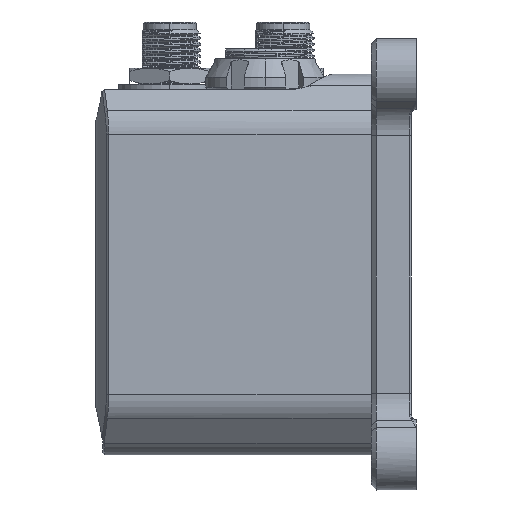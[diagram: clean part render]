
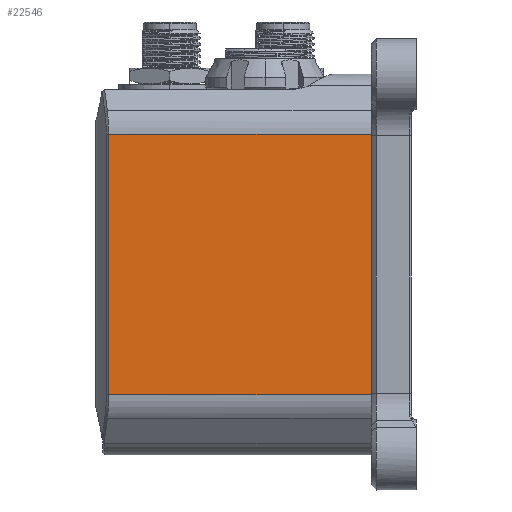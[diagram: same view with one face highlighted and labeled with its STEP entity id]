
A CAD part, left-side view. The second image highlights one B-rep face of the part: STEP entity #22546.
In plain terms, the highlighted planar face has unit normal (-1, 0, 0).
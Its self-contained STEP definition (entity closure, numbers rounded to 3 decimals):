
#1529 = VERTEX_POINT ( 'NONE', #55638 ) ;
#1611 = EDGE_CURVE ( 'NONE', #6517, #22581, #45923, .T. ) ;
#2511 = ORIENTED_EDGE ( 'NONE', *, *, #3895, .T. ) ;
#3051 = DIRECTION ( 'NONE',  ( 0., 0., -1. ) ) ;
#3895 = EDGE_CURVE ( 'NONE', #22581, #58399, #29350, .T. ) ;
#6517 = VERTEX_POINT ( 'NONE', #46482 ) ;
#9006 = CARTESIAN_POINT ( 'NONE',  ( -28.886, 12.753, 25. ) ) ;
#16021 = CARTESIAN_POINT ( 'NONE',  ( -28.886, 14.053, 51. ) ) ;
#19737 = VECTOR ( 'NONE', #43160, 1000. ) ;
#20570 = DIRECTION ( 'NONE',  ( 0., 0., 1. ) ) ;
#21866 = CARTESIAN_POINT ( 'NONE',  ( -28.886, 14.053, 25. ) ) ;
#22237 = EDGE_CURVE ( 'NONE', #6517, #1529, #44852, .T. ) ;
#22546 = ADVANCED_FACE ( 'NONE', ( #60431 ), #31585, .F. ) ;
#22581 = VERTEX_POINT ( 'NONE', #9006 ) ;
#24708 = ORIENTED_EDGE ( 'NONE', *, *, #22237, .F. ) ;
#25050 = CARTESIAN_POINT ( 'NONE',  ( -28.886, -13.447, 25. ) ) ;
#29350 = LINE ( 'NONE', #61683, #19737 ) ;
#29643 = LINE ( 'NONE', #44399, #33187 ) ;
#31402 = VECTOR ( 'NONE', #59270, 1000. ) ;
#31585 = PLANE ( 'NONE',  #38444 ) ;
#33187 = VECTOR ( 'NONE', #20570, 1000. ) ;
#36515 = VECTOR ( 'NONE', #3051, 1000. ) ;
#38444 = AXIS2_PLACEMENT_3D ( 'NONE', #21866, #55431, #50725 ) ;
#43160 = DIRECTION ( 'NONE',  ( 0., -1., 0. ) ) ;
#44399 = CARTESIAN_POINT ( 'NONE',  ( -28.886, -13.447, 25. ) ) ;
#44852 = LINE ( 'NONE', #16021, #31402 ) ;
#45923 = LINE ( 'NONE', #46827, #36515 ) ;
#46482 = CARTESIAN_POINT ( 'NONE',  ( -28.886, 12.753, 51. ) ) ;
#46827 = CARTESIAN_POINT ( 'NONE',  ( -28.886, 12.753, 25. ) ) ;
#50725 = DIRECTION ( 'NONE',  ( 0., 0., -1. ) ) ;
#51390 = EDGE_LOOP ( 'NONE', ( #24708, #56768, #2511, #51401 ) ) ;
#51401 = ORIENTED_EDGE ( 'NONE', *, *, #56851, .T. ) ;
#55431 = DIRECTION ( 'NONE',  ( 1., 0., 0. ) ) ;
#55638 = CARTESIAN_POINT ( 'NONE',  ( -28.886, -13.447, 51. ) ) ;
#56768 = ORIENTED_EDGE ( 'NONE', *, *, #1611, .T. ) ;
#56851 = EDGE_CURVE ( 'NONE', #58399, #1529, #29643, .T. ) ;
#58399 = VERTEX_POINT ( 'NONE', #25050 ) ;
#59270 = DIRECTION ( 'NONE',  ( 0., -1., 0. ) ) ;
#60431 = FACE_OUTER_BOUND ( 'NONE', #51390, .T. ) ;
#61683 = CARTESIAN_POINT ( 'NONE',  ( -28.886, 14.053, 25. ) ) ;
